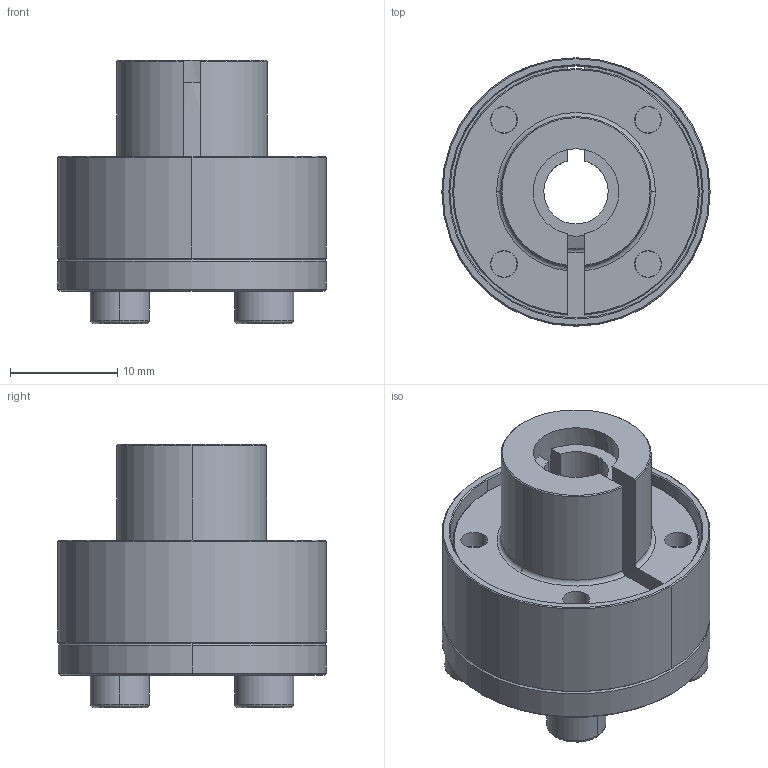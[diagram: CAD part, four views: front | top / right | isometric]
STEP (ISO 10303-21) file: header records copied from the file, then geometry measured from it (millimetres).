
FILE_DESCRIPTION (( 'STEP AP214' ), '1' );
FILE_NAME ('CONEX-B-CN-55-001.STEP', '2012-11-25T15:06:41', ( '' ), ( '' ), 'SwSTEP 2.0', 'SolidWorks 2010', '' );
FILE_SCHEMA (( 'AUTOMOTIVE_DESIGN' ));
Length unit declared in the file: millimetre
Products named in the file (1): CONEX-B-CN-55-001
Bounding box: 25 x 25 x 24.52 mm (x, y, z)
Volume: 5680.1 mm3; surface area: 6654.9 mm2
Topology: 7 solids, 7 shells, 191 faces, 441 edges, 264 vertices
Faces by surface type: plane 72, cylinder 52, cone 45, torus 22
Entity records: 7607 total; most frequent: DIRECTION 1012, CARTESIAN_POINT 951, ORIENTED_EDGE 866, EDGE_CURVE 433, AXIS2_PLACEMENT_3D 405, VERTEX_POINT 264, EDGE_LOOP 221, CIRCLE 213
